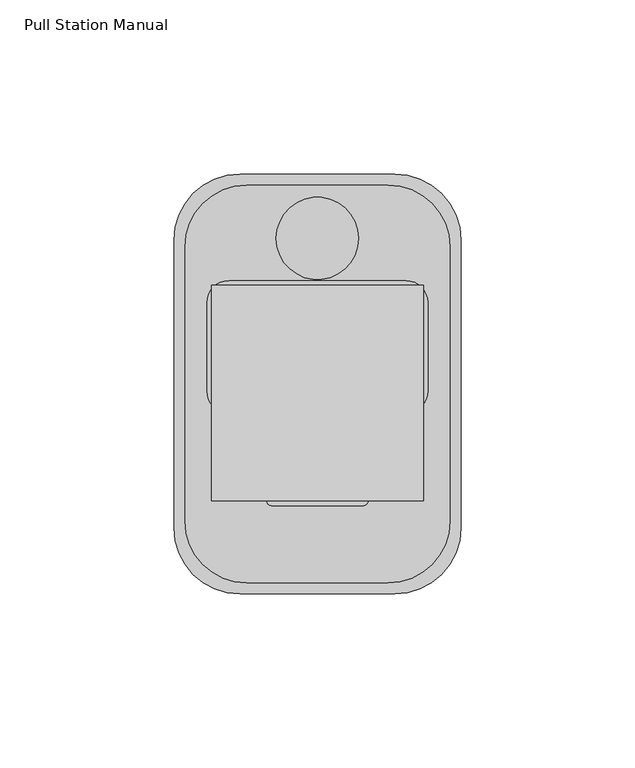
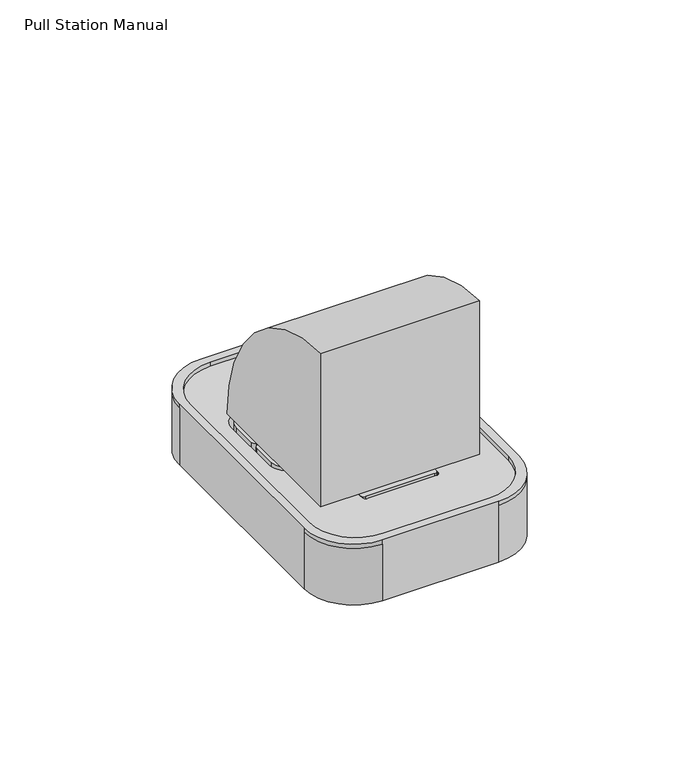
"""IFC4 building model written with IfcOpenShell, lengths in millimetres: alarm geometry, Pull Station Manual : Addressable SPST."""

from ifc_helpers import new_model, si_unit, point, frame, frame_2d, origin, place, context, project, spatial, polyline, circle_curve, trimmed, segment, composite_curve, outline, extrude, source, transform, mapped, element, save
from ifc_brep_helpers import plane_surface, cylinder_surface, revolved_surface, advanced_brep


def pull_station_manual_84165f4a(model_context):
    return source(origin(), model_context, "Body", "SolidModel", [
        extrude(outline(composite_curve([segment(trimmed(circle_curve(frame_2d((-24.0825661, 22.0853)), 6.35), [point((-30.4325661, 22.0853))], [point((-24.0825661, 28.4353))], False, "CARTESIAN"), True, "CONTINUOUS"), segment(polyline([(-24.0825661, 28.4353), (24.13, 28.4353)]), True, "CONTINUOUS"), segment(trimmed(circle_curve(frame_2d((24.13, 22.0853)), 6.35), [point((24.13, 28.4353))], [point((30.48, 22.0853))], False, "CARTESIAN"), True, "CONTINUOUS"), segment(polyline([(30.48, 22.0853), (30.48, 12.5603)]), True, "CONTINUOUS"), segment(trimmed(circle_curve(frame_2d((29.21, 12.5603)), 1.27), [point((30.48, 12.5603))], [point((29.21, 11.2903))], False, "CARTESIAN"), True, "CONTINUOUS"), segment(polyline([(29.21, 11.2903), (-29.1625661, 11.2903)]), True, "CONTINUOUS"), segment(trimmed(circle_curve(frame_2d((-29.1625661, 12.5603)), 1.27), [point((-29.1625661, 11.2903))], [point((-30.4325661, 12.5603))], False, "CARTESIAN"), True, "CONTINUOUS"), segment(polyline([(-30.4325661, 12.5603), (-30.4325661, 22.0853)]), True, "CONTINUOUS")], self_intersect=False)), frame((0.0, 0.0, 11.43), z_axis=(0.0, 0.0, 1.0), x_axis=(1.0, 0.0, 0.0)), (0.0, 0.0, 1.0), 11.43),
        extrude(outline(composite_curve([segment(polyline([(30.48, 8.7503), (30.48, -0.7747)]), True, "CONTINUOUS"), segment(trimmed(circle_curve(frame_2d((24.13, -0.7747)), 6.35), [point((30.48, -0.7747))], [point((24.13, -7.1247))], False, "CARTESIAN"), True, "CONTINUOUS"), segment(polyline([(24.13, -7.1247), (6.35, -7.1247), (6.35, -26.8874669), (13.2334, -26.8874669)]), True, "CONTINUOUS"), segment(trimmed(circle_curve(frame_2d((13.2334, -28.1574669)), 1.27), [point((13.2334, -26.8874669))], [point((14.5034, -28.1574669))], False, "CARTESIAN"), True, "CONTINUOUS"), segment(polyline([(14.5034, -28.1574669), (14.5034, -32.3140635)]), True, "CONTINUOUS"), segment(trimmed(circle_curve(frame_2d((13.2334, -32.3140635)), 1.27), [point((14.5034, -32.3140635))], [point((13.2334, -33.5840635))], False, "CARTESIAN"), True, "CONTINUOUS"), segment(polyline([(13.2334, -33.5840635), (-13.2334, -33.5840635)]), True, "CONTINUOUS"), segment(trimmed(circle_curve(frame_2d((-13.2334, -32.3140635)), 1.27), [point((-13.2334, -33.5840635))], [point((-14.5034, -32.3140635))], False, "CARTESIAN"), True, "CONTINUOUS"), segment(polyline([(-14.5034, -32.3140635), (-14.5034, -28.1574669)]), True, "CONTINUOUS"), segment(trimmed(circle_curve(frame_2d((-13.2334, -28.1574669)), 1.27), [point((-14.5034, -28.1574669))], [point((-13.2334, -26.8874669))], False, "CARTESIAN"), True, "CONTINUOUS"), segment(polyline([(-13.2334, -26.8874669), (-6.35, -26.8874669), (-6.35, -7.1247), (-24.0825661, -7.1247)]), True, "CONTINUOUS"), segment(trimmed(circle_curve(frame_2d((-24.0825661, -0.7747)), 6.35), [point((-24.0825661, -7.1247))], [point((-30.4325661, -0.7747))], False, "CARTESIAN"), True, "CONTINUOUS"), segment(polyline([(-30.4325661, -0.7747), (-30.4325661, 8.7503)]), True, "CONTINUOUS"), segment(trimmed(circle_curve(frame_2d((-29.1625661, 8.7503)), 1.27), [point((-30.4325661, 8.7503))], [point((-29.1625661, 10.0203))], False, "CARTESIAN"), True, "CONTINUOUS"), segment(polyline([(-29.1625661, 10.0203), (29.21, 10.0203)]), True, "CONTINUOUS"), segment(trimmed(circle_curve(frame_2d((29.21, 8.7503)), 1.27), [point((29.21, 10.0203))], [point((30.48, 8.7503))], False, "CARTESIAN"), True, "CONTINUOUS")], self_intersect=False)), frame((0.0, 0.0, 11.43), z_axis=(0.0, 0.0, 1.0), x_axis=(1.0, 0.0, 0.0)), (0.0, 0.0, 1.0), 11.43),
        advanced_brep(
        [(38.1, 39.37, 22.86), (20.32, 57.15, 22.86), (-20.32, 57.15, 22.86), (-38.1, 39.37, 22.86), (-38.1, -39.37, 22.86), (-20.32, -57.15, 22.86), (20.32, -57.15, 22.86), (38.1, -39.37, 22.86), (-25.4, 29.7053, 22.86), (25.4, 29.7053, 22.86), (31.75, 23.3553, 22.86), (31.75, -2.0447, 22.86), (25.4, -8.3947, 22.86), (6.35, -8.3947, 22.86), (6.35, -25.62098, 22.86), (13.2334, -25.62098, 22.86), (14.5034, -26.89098, 22.86), (14.5034, -33.655, 22.86), (13.2334, -34.925, 22.86), (-13.2334, -34.925, 22.86), (-14.5034, -33.655, 22.86), (-14.5034, -26.89098, 22.86), (-13.2334, -25.62098, 22.86), (-6.35, -25.62098, 22.86), (-6.35, -8.3947, 22.86), (-25.4, -8.3947, 22.86), (-31.75, -2.0447, 22.86), (-31.75, 23.3553, 22.86), (22.225, 60.325, 0.0), (41.275, 41.275, 0.0), (41.275, -41.275, 0.0), (22.225, -60.325, 0.0), (-22.225, -60.325, 0.0), (-41.275, -41.275, 0.0), (-41.275, 41.275, 0.0), (-22.225, 60.325, 0.0), (-22.225, 60.325, 22.86), (-22.225, 60.325, 24.6126), (22.225, 60.325, 24.6126), (22.225, 60.325, 22.86), (-41.275, 41.275, 22.86), (-41.275, -41.275, 22.86), (-41.275, -41.275, 24.6126), (-41.275, 41.275, 24.6126), (-22.225, -60.325, 22.86), (22.225, -60.325, 22.86), (22.225, -60.325, 24.6126), (-22.225, -60.325, 24.6126), (41.275, -41.275, 22.86), (41.275, 41.275, 22.86), (41.275, 41.275, 24.6126), (41.275, -41.275, 24.6126), (25.4, 29.7053, 11.43), (-25.4, 29.7053, 11.43), (-31.75, 23.3553, 11.43), (-31.75, -2.0447, 11.43), (-25.4, -8.3947, 11.43), (-6.35, -8.3947, 11.43), (-6.35, -25.62098, 11.43), (-13.2334, -25.62098, 11.43), (-14.5034, -26.89098, 11.43), (-14.5034, -33.655, 11.43), (-13.2334, -34.925, 11.43), (13.2334, -34.925, 11.43), (14.5034, -33.655, 11.43), (14.5034, -26.89098, 11.43), (13.2334, -25.62098, 11.43), (6.35, -25.62098, 11.43), (6.35, -8.3947, 11.43), (25.4, -8.3947, 11.43), (31.75, -2.0447, 11.43), (31.75, 23.3553, 11.43), (20.32, 57.15, 24.6126), (38.1, 39.37, 24.6126), (38.1, -39.37, 24.6126), (20.32, -57.15, 24.6126), (-20.32, -57.15, 24.6126), (-38.1, -39.37, 24.6126), (-38.1, 39.37, 24.6126), (-20.32, 57.15, 24.6126)],
        [
            (0, 1, circle_curve(frame((20.32, 39.37, 22.86), z_axis=(0.0, 0.0, 1.0), x_axis=(1.0, 0.0, 0.0)), 17.78)),
            (1, 2),
            (2, 3, circle_curve(frame((-20.32, 39.37, 22.86), z_axis=(0.0, 0.0, 1.0), x_axis=(1.0, 0.0, 0.0)), 17.78)),
            (3, 4),
            (4, 5, circle_curve(frame((-20.32, -39.37, 22.86), z_axis=(0.0, 0.0, 1.0), x_axis=(1.0, 0.0, 0.0)), 17.78)),
            (5, 6),
            (6, 7, circle_curve(frame((20.32, -39.37, 22.86), z_axis=(0.0, 0.0, 1.0), x_axis=(1.0, 0.0, 0.0)), 17.78)),
            (7, 0),
            (8, 9),
            (9, 10, circle_curve(frame((25.4, 23.3553, 22.86), z_axis=(0.0, 0.0, -1.0), x_axis=(1.0, 0.0, 0.0)), 6.35)),
            (10, 11),
            (11, 12, circle_curve(frame((25.4, -2.0447, 22.86), z_axis=(0.0, 0.0, -1.0), x_axis=(1.0, 0.0, 0.0)), 6.35)),
            (12, 13),
            (13, 14),
            (14, 15),
            (15, 16, circle_curve(frame((13.2334, -26.89098, 22.86), z_axis=(0.0, 0.0, -1.0), x_axis=(1.0, 0.0, 0.0)), 1.27)),
            (16, 17),
            (17, 18, circle_curve(frame((13.2334, -33.655, 22.86), z_axis=(0.0, 0.0, -1.0), x_axis=(1.0, 0.0, 0.0)), 1.27)),
            (18, 19),
            (19, 20, circle_curve(frame((-13.2334, -33.655, 22.86), z_axis=(0.0, 0.0, -1.0), x_axis=(1.0, 0.0, 0.0)), 1.27)),
            (20, 21),
            (21, 22, circle_curve(frame((-13.2334, -26.89098, 22.86), z_axis=(0.0, 0.0, -1.0), x_axis=(1.0, 0.0, 0.0)), 1.27)),
            (22, 23),
            (23, 24),
            (24, 25),
            (25, 26, circle_curve(frame((-25.4, -2.0447, 22.86), z_axis=(0.0, 0.0, -1.0), x_axis=(1.0, 0.0, 0.0)), 6.35)),
            (26, 27),
            (27, 8, circle_curve(frame((-25.4, 23.3553, 22.86), z_axis=(0.0, 0.0, -1.0), x_axis=(1.0, 0.0, 0.0)), 6.35)),
            (28, 29, circle_curve(frame((22.225, 41.275, 0.0), z_axis=(0.0, 0.0, -1.0), x_axis=(1.0, 0.0, 0.0)), 19.05)),
            (29, 30),
            (30, 31, circle_curve(frame((22.225, -41.275, 0.0), z_axis=(0.0, 0.0, -1.0), x_axis=(1.0, 0.0, 0.0)), 19.05)),
            (31, 32),
            (32, 33, circle_curve(frame((-22.225, -41.275, 0.0), z_axis=(0.0, 0.0, -1.0), x_axis=(1.0, 0.0, 0.0)), 19.05)),
            (33, 34),
            (34, 35, circle_curve(frame((-22.225, 41.275, 0.0), z_axis=(0.0, 0.0, -1.0), x_axis=(1.0, 0.0, 0.0)), 19.05)),
            (35, 28),
            (35, 36),
            (36, 37),
            (37, 38),
            (38, 39),
            (39, 28),
            (34, 40),
            (40, 36, circle_curve(frame((-22.225, 41.275, 22.86), z_axis=(0.0, 0.0, -1.0), x_axis=(1.0, 0.0, 0.0)), 19.05)),
            (33, 41),
            (41, 42),
            (42, 43),
            (43, 40),
            (32, 44),
            (44, 41, circle_curve(frame((-22.225, -41.275, 22.86), z_axis=(0.0, 0.0, -1.0), x_axis=(1.0, 0.0, 0.0)), 19.05)),
            (31, 45),
            (45, 46),
            (46, 47),
            (47, 44),
            (30, 48),
            (48, 45, circle_curve(frame((22.225, -41.275, 22.86), z_axis=(0.0, 0.0, -1.0), x_axis=(1.0, 0.0, 0.0)), 19.05)),
            (29, 49),
            (49, 50),
            (50, 51),
            (51, 48),
            (39, 49, circle_curve(frame((22.225, 41.275, 22.86), z_axis=(0.0, 0.0, -1.0), x_axis=(1.0, 0.0, 0.0)), 19.05)),
            (52, 53),
            (53, 54, circle_curve(frame((-25.4, 23.3553, 11.43), z_axis=(0.0, 0.0, 1.0), x_axis=(1.0, 0.0, 0.0)), 6.35)),
            (54, 55),
            (55, 56, circle_curve(frame((-25.4, -2.0447, 11.43), z_axis=(0.0, 0.0, 1.0), x_axis=(1.0, 0.0, 0.0)), 6.35)),
            (56, 57),
            (57, 58),
            (58, 59),
            (59, 60, circle_curve(frame((-13.2334, -26.89098, 11.43), z_axis=(0.0, 0.0, 1.0), x_axis=(1.0, 0.0, 0.0)), 1.27)),
            (60, 61),
            (61, 62, circle_curve(frame((-13.2334, -33.655, 11.43), z_axis=(0.0, 0.0, 1.0), x_axis=(1.0, 0.0, 0.0)), 1.27)),
            (62, 63),
            (63, 64, circle_curve(frame((13.2334, -33.655, 11.43), z_axis=(0.0, 0.0, 1.0), x_axis=(1.0, 0.0, 0.0)), 1.27)),
            (64, 65),
            (65, 66, circle_curve(frame((13.2334, -26.89098, 11.43), z_axis=(0.0, 0.0, 1.0), x_axis=(1.0, 0.0, 0.0)), 1.27)),
            (66, 67),
            (67, 68),
            (68, 69),
            (69, 70, circle_curve(frame((25.4, -2.0447, 11.43), z_axis=(0.0, 0.0, 1.0), x_axis=(1.0, 0.0, 0.0)), 6.35)),
            (70, 71),
            (71, 52, circle_curve(frame((25.4, 23.3553, 11.43), z_axis=(0.0, 0.0, 1.0), x_axis=(1.0, 0.0, 0.0)), 6.35)),
            (52, 9),
            (8, 53),
            (27, 54),
            (26, 55),
            (25, 56),
            (24, 57),
            (23, 58),
            (22, 59),
            (21, 60),
            (20, 61),
            (19, 62),
            (18, 63),
            (17, 64),
            (16, 65),
            (15, 66),
            (14, 67),
            (13, 68),
            (12, 69),
            (11, 70),
            (10, 71),
            (42, 47, circle_curve(frame((-22.225, -41.275, 24.6126), z_axis=(0.0, 0.0, 1.0), x_axis=(1.0, 0.0, 0.0)), 19.05)),
            (46, 51, circle_curve(frame((22.225, -41.275, 24.6126), z_axis=(0.0, 0.0, 1.0), x_axis=(1.0, 0.0, 0.0)), 19.05)),
            (50, 38, circle_curve(frame((22.225, 41.275, 24.6126), z_axis=(0.0, 0.0, 1.0), x_axis=(1.0, 0.0, 0.0)), 19.05)),
            (37, 43, circle_curve(frame((-22.225, 41.275, 24.6126), z_axis=(0.0, 0.0, 1.0), x_axis=(1.0, 0.0, 0.0)), 19.05)),
            (72, 73, circle_curve(frame((20.32, 39.37, 24.6126), z_axis=(0.0, 0.0, -1.0), x_axis=(1.0, 0.0, 0.0)), 17.78)),
            (73, 74),
            (74, 75, circle_curve(frame((20.32, -39.37, 24.6126), z_axis=(0.0, 0.0, -1.0), x_axis=(1.0, 0.0, 0.0)), 17.78)),
            (75, 76),
            (76, 77, circle_curve(frame((-20.32, -39.37, 24.6126), z_axis=(0.0, 0.0, -1.0), x_axis=(1.0, 0.0, 0.0)), 17.78)),
            (77, 78),
            (78, 79, circle_curve(frame((-20.32, 39.37, 24.6126), z_axis=(0.0, 0.0, -1.0), x_axis=(1.0, 0.0, 0.0)), 17.78)),
            (79, 72),
            (72, 1),
            (0, 73),
            (7, 74),
            (6, 75),
            (5, 76),
            (4, 77),
            (3, 78),
            (2, 79),
        ],
        [
            plane_surface(frame((-41.275, 60.325, 22.86), z_axis=(0.0, 0.0, 1.0), x_axis=(-1.0, 0.0, 0.0))),
            plane_surface(frame((-41.275, 60.325, 0.0), z_axis=(0.0, 0.0, -1.0), x_axis=(1.0, 0.0, 0.0))),
            plane_surface(frame((22.225, 60.325, 22.86), z_axis=(0.0, 1.0, 0.0), x_axis=(0.0, 0.0, -1.0))),
            cylinder_surface(frame((-22.225, 41.275, 0.0), z_axis=(0.0, 0.0, 1.0), x_axis=(1.0, 0.0, 0.0)), 19.05),
            plane_surface(frame((-41.275, 41.275, 22.86), z_axis=(-1.0, 0.0, 0.0), x_axis=(0.0, 0.0, -1.0))),
            cylinder_surface(frame((-22.225, -41.275, 0.0), z_axis=(0.0, 0.0, 1.0), x_axis=(1.0, 0.0, 0.0)), 19.05),
            plane_surface(frame((-22.225, -60.325, 22.86), z_axis=(0.0, -1.0, 0.0), x_axis=(0.0, 0.0, -1.0))),
            cylinder_surface(frame((22.225, -41.275, 0.0), z_axis=(0.0, 0.0, 1.0), x_axis=(1.0, 0.0, 0.0)), 19.05),
            plane_surface(frame((41.275, -41.275, 22.86), z_axis=(1.0, 0.0, 0.0), x_axis=(0.0, 0.0, -1.0))),
            cylinder_surface(frame((22.225, 41.275, 0.0), z_axis=(0.0, 0.0, 1.0), x_axis=(1.0, 0.0, 0.0)), 19.05),
            plane_surface(frame((-31.75, 29.7053, 11.43), z_axis=(0.0, 0.0, 1.0), x_axis=(1.0, 0.0, 0.0))),
            plane_surface(frame((25.4, 29.7053, 22.86), z_axis=(0.0, -1.0, 0.0), x_axis=(0.0, 0.0, -1.0))),
            revolved_surface(polyline([(-19.049999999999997, 23.3553, 22.86), (-19.049999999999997, 23.3553, 11.43)]), (-25.4, 23.3553, 11.43), (0.0, 0.0, 1.0)),
            plane_surface(frame((-31.75, 23.3553, 22.86), z_axis=(1.0, 0.0, 0.0), x_axis=(0.0, 0.0, -1.0))),
            revolved_surface(polyline([(-19.049999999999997, -2.0447, 22.86), (-19.049999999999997, -2.0447, 11.43)]), (-25.4, -2.0447, 11.43), (0.0, 0.0, 1.0)),
            plane_surface(frame((-25.4, -8.3947, 22.86), z_axis=(0.0, 1.0, 0.0), x_axis=(0.0, 0.0, -1.0))),
            plane_surface(frame((-6.35, -8.3947, 22.86), z_axis=(1.0, 0.0, 0.0), x_axis=(0.0, 0.0, -1.0))),
            plane_surface(frame((-6.35, -25.62098, 22.86), z_axis=(0.0, -1.0, 0.0), x_axis=(0.0, 0.0, -1.0))),
            revolved_surface(polyline([(-11.9634, -26.89098, 22.86), (-11.9634, -26.89098, 11.43)]), (-13.2334, -26.89098, 11.43), (0.0, 0.0, 1.0)),
            plane_surface(frame((-14.5034, -26.89098, 22.86), z_axis=(1.0, 0.0, 0.0), x_axis=(0.0, 0.0, -1.0))),
            revolved_surface(polyline([(-11.9634, -33.655, 22.86), (-11.9634, -33.655, 11.43)]), (-13.2334, -33.655, 11.43), (0.0, 0.0, 1.0)),
            plane_surface(frame((-13.2334, -34.925, 22.86), z_axis=(0.0, 1.0, 0.0), x_axis=(0.0, 0.0, -1.0))),
            revolved_surface(polyline([(14.5034, -33.655, 22.86), (14.5034, -33.655, 11.43)]), (13.2334, -33.655, 11.43), (0.0, 0.0, 1.0)),
            plane_surface(frame((14.5034, -33.655, 22.86), z_axis=(-1.0, 0.0, 0.0), x_axis=(0.0, 0.0, -1.0))),
            revolved_surface(polyline([(14.5034, -26.89098, 22.86), (14.5034, -26.89098, 11.43)]), (13.2334, -26.89098, 11.43), (0.0, 0.0, 1.0)),
            plane_surface(frame((13.2334, -25.62098, 22.86), z_axis=(0.0, -1.0, 0.0), x_axis=(0.0, 0.0, -1.0))),
            plane_surface(frame((6.35, -25.62098, 22.86), z_axis=(-1.0, 0.0, 0.0), x_axis=(0.0, 0.0, -1.0))),
            plane_surface(frame((6.35, -8.3947, 22.86), z_axis=(0.0, 1.0, 0.0), x_axis=(0.0, 0.0, -1.0))),
            revolved_surface(polyline([(31.75, -2.0447, 22.86), (31.75, -2.0447, 11.43)]), (25.4, -2.0447, 11.43), (0.0, 0.0, 1.0)),
            plane_surface(frame((31.75, -2.0447, 22.86), z_axis=(-1.0, 0.0, 0.0), x_axis=(0.0, 0.0, -1.0))),
            revolved_surface(polyline([(31.75, 23.3553, 22.86), (31.75, 23.3553, 11.43)]), (25.4, 23.3553, 11.43), (0.0, 0.0, 1.0)),
            plane_surface(frame((-41.275, 41.275, 24.6126), z_axis=(0.0, 0.0, 1.0), x_axis=(0.0, -1.0, 0.0))),
            cylinder_surface(frame((-22.225, -41.275, 22.86), z_axis=(0.0, 0.0, 1.0), x_axis=(1.0, 0.0, 0.0)), 19.05),
            cylinder_surface(frame((22.225, -41.275, 22.86), z_axis=(0.0, 0.0, 1.0), x_axis=(1.0, 0.0, 0.0)), 19.05),
            cylinder_surface(frame((22.225, 41.275, 22.86), z_axis=(0.0, 0.0, 1.0), x_axis=(1.0, 0.0, 0.0)), 19.05),
            cylinder_surface(frame((-22.225, 41.275, 22.86), z_axis=(0.0, 0.0, 1.0), x_axis=(1.0, 0.0, 0.0)), 19.05),
            revolved_surface(polyline([(38.1, 39.37, 22.86), (38.1, 39.37, 24.6126)]), (20.32, 39.37, 0.0), (0.0, 0.0, -1.0)),
            plane_surface(frame((38.1, 39.37, 24.6126), z_axis=(-1.0, 0.0, 0.0), x_axis=(0.0, 0.0, -1.0))),
            revolved_surface(polyline([(38.1, -39.37, 22.86), (38.1, -39.37, 24.6126)]), (20.32, -39.37, 0.0), (0.0, 0.0, -1.0)),
            plane_surface(frame((20.32, -57.15, 24.6126), z_axis=(0.0, 1.0, 0.0), x_axis=(0.0, 0.0, -1.0))),
            revolved_surface(polyline([(-2.539999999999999, -39.37, 22.86), (-2.539999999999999, -39.37, 24.6126)]), (-20.32, -39.37, 0.0), (0.0, 0.0, -1.0)),
            plane_surface(frame((-38.1, -39.37, 24.6126), z_axis=(1.0, 0.0, 0.0), x_axis=(0.0, 0.0, -1.0))),
            revolved_surface(polyline([(-2.539999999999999, 39.37, 22.86), (-2.539999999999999, 39.37, 24.6126)]), (-20.32, 39.37, 0.0), (0.0, 0.0, -1.0)),
            plane_surface(frame((-20.32, 57.15, 24.6126), z_axis=(0.0, -1.0, 0.0), x_axis=(0.0, 0.0, -1.0))),
        ],
        [
            (0, [[1, 2, 3, 4, 5, 6, 7, 8], [9, 10, 11, 12, 13, 14, 15, 16, 17, 18, 19, 20, 21, 22, 23, 24, 25, 26, 27, 28]]),
            (1, [[29, 30, 31, 32, 33, 34, 35, 36]]),
            (2, [[-36, 37, 38, 39, 40, 41]]),
            (3, [[-35, 42, 43, -37]]),
            (4, [[-34, 44, 45, 46, 47, -42]]),
            (5, [[-33, 48, 49, -44]]),
            (6, [[-32, 50, 51, 52, 53, -48]]),
            (7, [[-31, 54, 55, -50]]),
            (8, [[-30, 56, 57, 58, 59, -54]]),
            (9, [[-29, -41, 60, -56]]),
            (10, [[61, 62, 63, 64, 65, 66, 67, 68, 69, 70, 71, 72, 73, 74, 75, 76, 77, 78, 79, 80]]),
            (11, [[-61, 81, -9, 82]]),
            (12, [[-62, -82, -28, 83]]),
            (13, [[-63, -83, -27, 84]]),
            (14, [[-64, -84, -26, 85]]),
            (15, [[-65, -85, -25, 86]]),
            (16, [[-66, -86, -24, 87]]),
            (17, [[-67, -87, -23, 88]]),
            (18, [[-68, -88, -22, 89]]),
            (19, [[-69, -89, -21, 90]]),
            (20, [[-70, -90, -20, 91]]),
            (21, [[-71, -91, -19, 92]]),
            (22, [[-72, -92, -18, 93]]),
            (23, [[-73, -93, -17, 94]]),
            (24, [[-74, -94, -16, 95]]),
            (25, [[-75, -95, -15, 96]]),
            (26, [[-76, -96, -14, 97]]),
            (27, [[-77, -97, -13, 98]]),
            (28, [[-78, -98, -12, 99]]),
            (29, [[-79, -99, -11, 100]]),
            (30, [[-80, -100, -10, -81]]),
            (31, [[-46, 101, -52, 102, -58, 103, -39, 104], [105, 106, 107, 108, 109, 110, 111, 112]]),
            (32, [[-101, -45, -49, -53]]),
            (33, [[-102, -51, -55, -59]]),
            (34, [[-103, -57, -60, -40]]),
            (35, [[-104, -38, -43, -47]]),
            (36, [[-105, 113, -1, 114]]),
            (37, [[-106, -114, -8, 115]]),
            (38, [[-107, -115, -7, 116]]),
            (39, [[-108, -116, -6, 117]]),
            (40, [[-109, -117, -5, 118]]),
            (41, [[-110, -118, -4, 119]]),
            (42, [[-111, -119, -3, 120]]),
            (43, [[-112, -120, -2, -113]]),
        ],
    ),
        extrude(outline(composite_curve([segment(trimmed(circle_curve(frame_2d((0.0, 41.8599028)), 11.8364), [point((-11.8364, 41.8599028))], [point((11.8364, 41.8599028))], False, "CARTESIAN"), True, "CONTINUOUS"), segment(trimmed(circle_curve(frame_2d((0.0, 41.8599028)), 11.8364), [point((11.8364, 41.8599028))], [point((-11.8364, 41.8599028))], False, "CARTESIAN"), True, "CONTINUOUS")], self_intersect=False)), frame((0.0, 0.0, 22.86), z_axis=(0.0, 0.0, 1.0), x_axis=(1.0, 0.0, 0.0)), (0.0, 0.0, 1.0), 4.524375),
        extrude(outline(composite_curve([segment(trimmed(circle_curve(frame_2d((-33.5840635, 24.6126)), 62.0193635), [point((-33.5840635, 86.6319635))], [point((28.4353, 24.6126))], False, "CARTESIAN"), True, "CONTINUOUS"), segment(polyline([(28.4353, 24.6126), (-33.5840635, 24.6126), (-33.5840635, 86.6319635)]), True, "CONTINUOUS")], self_intersect=False)), frame((-30.4325661, 0.0, 0.0), z_axis=(1.0, 0.0, 0.0), x_axis=(0.0, 1.0, 0.0)), (0.0, 0.0, 1.0), 60.9125661),
    ])


if __name__ == "__main__":
    model = new_model("IFC4")
    model_context = context("Model", 3, world=origin())
    ifc_project = project(units=[si_unit("LENGTHUNIT", "METRE", prefix="MILLI")], contexts=[model_context])
    site = spatial("IfcSite", under=ifc_project)
    building = spatial("IfcBuilding", under=site)
    placement = place(None, origin())
    pull_station_manual_shape = pull_station_manual_84165f4a(model_context)
    element("IfcAlarm", 1, ObjectType="Pull Station Manual : Addressable SPST", at=placement, inside=building, context=model_context, shape_type="MappedRepresentation", body=[
        mapped(pull_station_manual_shape, transform((0.0, 0.0, 0.0), x_axis=(1.0, 0.0, 0.0), y_axis=(0.0, 1.0, 0.0), z_axis=(0.0, 0.0, 1.0))),
    ])
    save(model, "model.ifc")
